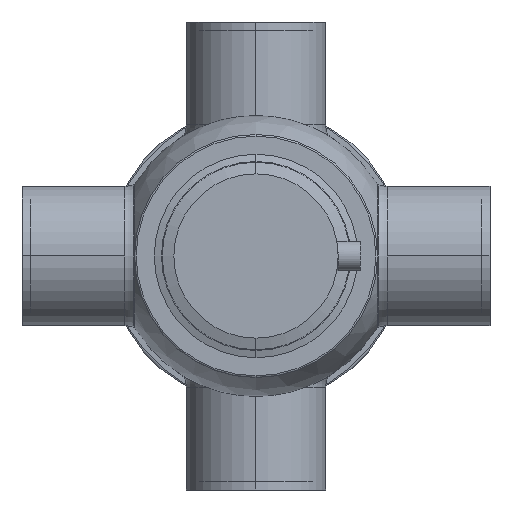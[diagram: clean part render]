
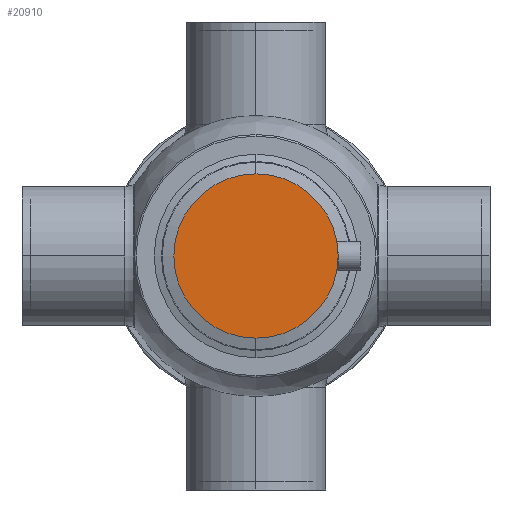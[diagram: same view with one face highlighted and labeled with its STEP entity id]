
A CAD part, front view. The second image highlights one B-rep face of the part: STEP entity #20910.
In plain terms, the highlighted planar face has unit normal (0, -1, 0) as drawn and (0, 0, -1) by its records, which use the part's own axes.
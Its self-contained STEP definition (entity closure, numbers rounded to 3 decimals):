
#12150=CARTESIAN_POINT('',(-50.,34.1,-20.));
#12160=VERTEX_POINT('',#12150);
#12340=CARTESIAN_POINT('',(50.,34.1,-20.));
#12350=VERTEX_POINT('',#12340);
#12380=CARTESIAN_POINT('',(0.,34.1,-20.));
#12390=DIRECTION('',(0.,0.,1.));
#12400=DIRECTION('',(1.,0.,0.));
#12410=AXIS2_PLACEMENT_3D('',#12380,#12390,#12400);
#12420=CIRCLE('',#12410,50.);
#12430=EDGE_CURVE('',#12160,#12350,#12420,.T.);
#20810=CARTESIAN_POINT('',(-48.25,34.1,-20.));
#20820=DIRECTION('',(0.,0.,-1.));
#20830=DIRECTION('',(-1.,0.,0.));
#20840=AXIS2_PLACEMENT_3D('',#20810,#20820,#20830);
#20850=PLANE('',#20840);
#20860=EDGE_CURVE('',#12350,#12160,#12420,.T.);
#20870=ORIENTED_EDGE('',*,*,#20860,.F.);
#20880=ORIENTED_EDGE('',*,*,#12430,.F.);
#20890=EDGE_LOOP('',(#20880,#20870));
#20900=FACE_OUTER_BOUND('',#20890,.T.);
#20910=ADVANCED_FACE('',(#20900),#20850,.T.);
